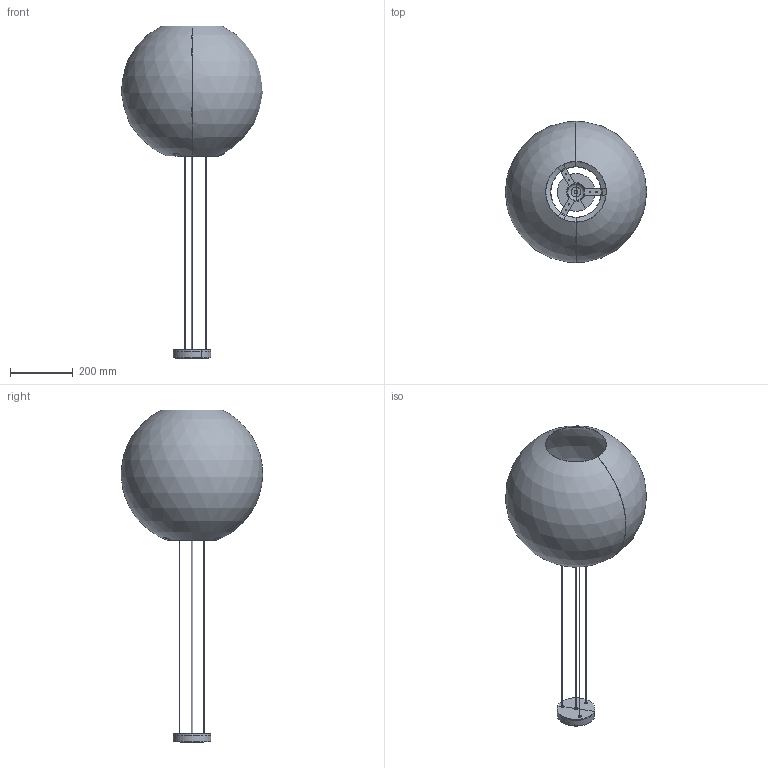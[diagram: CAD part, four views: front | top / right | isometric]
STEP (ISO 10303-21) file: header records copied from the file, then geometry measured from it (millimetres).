
FILE_DESCRIPTION(/* description */ (''),/* implementation_level */ '2;1');
FILE_NAME(/* name */ '20406.step',/* time_stamp */ '2024-03-28T11:47:05+01:00',/* author */ ('RenataManzini'),/* organization */ (''),/* preprocessor_version */ 'ST-DEVELOPER v20',/* originating_system */ 'AutoCAD Mechanical',/* authorisation */ '');
FILE_SCHEMA (('AUTOMOTIVE_DESIGN { 1 0 10303 214 3 1 1 }'));
Length unit declared in the file: millimetre
Products named in the file (4): Product; Pieza_20406_SC - Lamp Holder-709214-_3D_; Pieza_20406_SL01 - Lamp Holder-714499-_3D_; Pieza_20406_SL02 - Lamp Holder-713890-_3D_
Assembly tree (3 placements, depth 2):
  Product
    Pieza_20406_SC - Lamp Holder-709214-_3D_
    Pieza_20406_SL01 - Lamp Holder-714499-_3D_
    Pieza_20406_SL02 - Lamp Holder-713890-_3D_
Bounding box: 449.66 x 449.59 x 1056.2 mm (x, y, z)
Volume: 695161.4 mm3; surface area: 1277551.7 mm2
Topology: 9 solids, 9 shells, 142 faces, 333 edges, 206 vertices
Faces by surface type: cylinder 63, plane 61, cone 10, torus 4, sphere 4
Entity records: 5136 total; most frequent: CARTESIAN_POINT 1656, DIRECTION 759, ORIENTED_EDGE 666, EDGE_CURVE 333, AXIS2_PLACEMENT_3D 293, VERTEX_POINT 206, LINE 173, VECTOR 173
